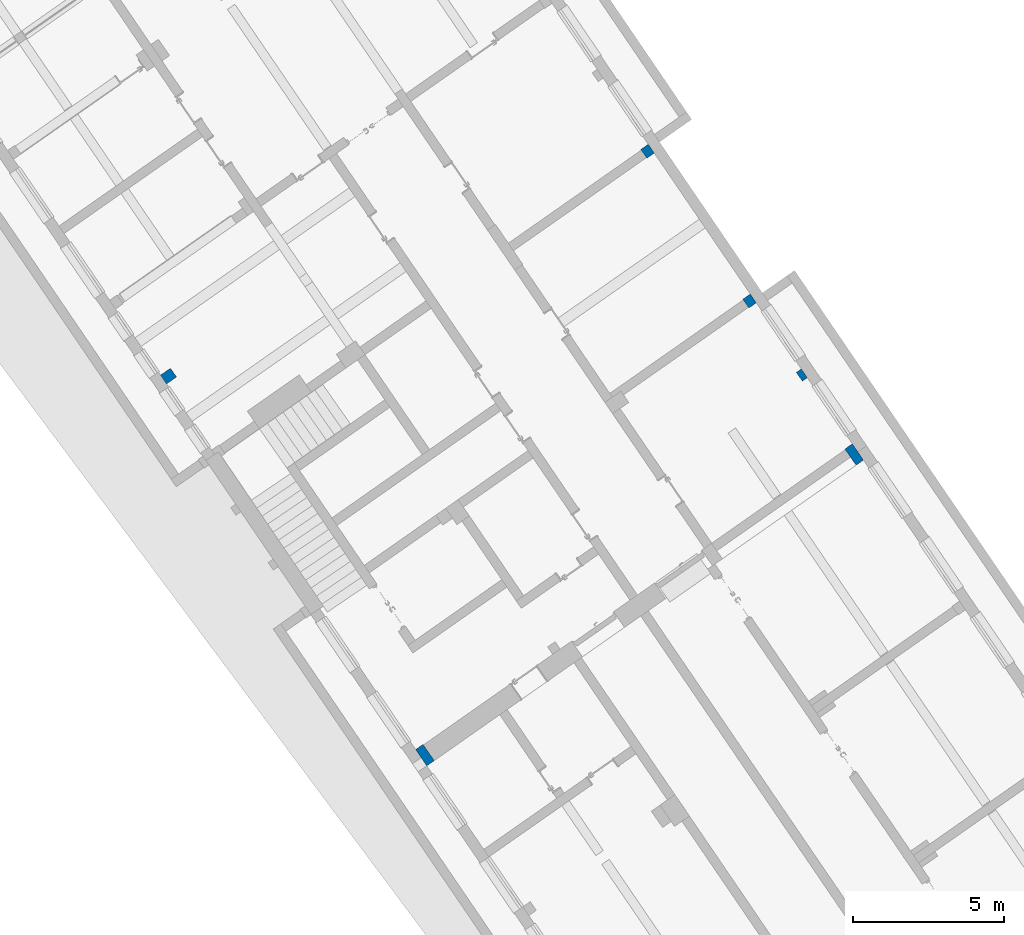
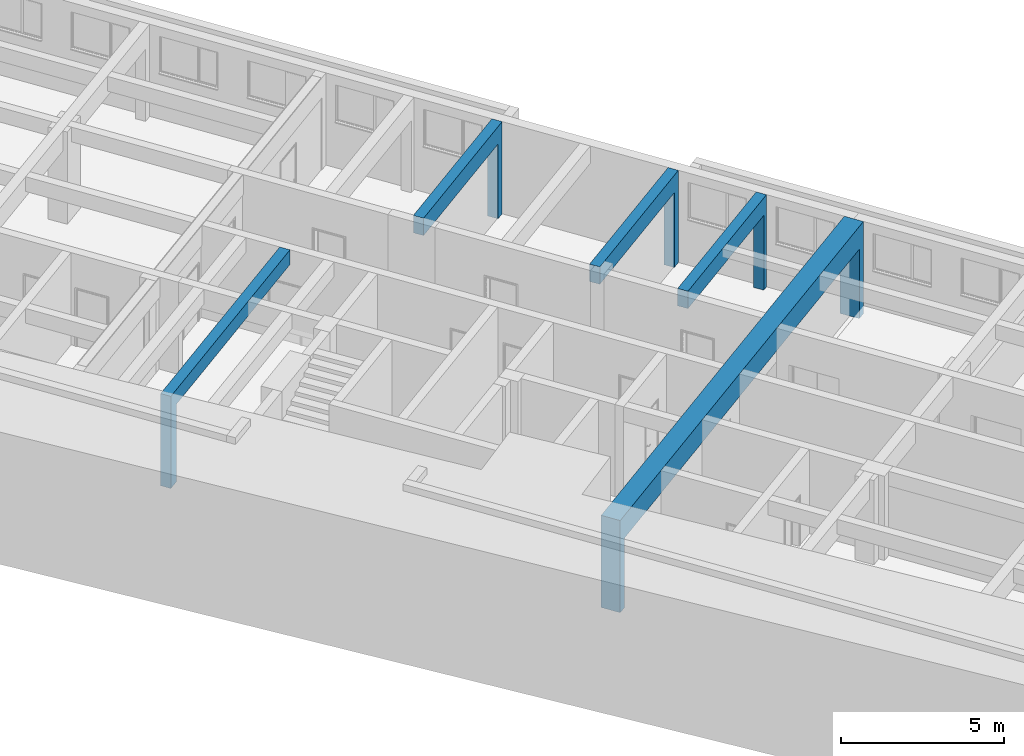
# One storey, part 104 of 112: 5 walls.
"""IFC2X3 building model written with IfcOpenShell, lengths in millimetres."""

from ifc_helpers import new_model, entity, si_unit, converted_unit, derived_unit, direction, frame, origin, place, context, subcontext, project, spatial, faceted_brep, material, layer, layer_set, type_object, element, save


model = new_model("IFC2X3")

# Units and contexts
model_context = context("Model", 3, precision=0.01, world=origin(), true_north=direction((6.123031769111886e-17, 1.0)))
body_context = subcontext(model_context, "Body", "Model", "MODEL_VIEW")
ifc_project = project(units=[si_unit("LENGTHUNIT", "METRE", prefix="MILLI"), si_unit("AREAUNIT", "SQUARE_METRE"), si_unit("VOLUMEUNIT", "CUBIC_METRE"), converted_unit("PLANEANGLEUNIT", "DEGREE", entity("IfcRatioMeasure", 0.017453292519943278), si_unit("PLANEANGLEUNIT", "RADIAN"), dimensions=[0, 0, 0, 0, 0, 0, 0]), si_unit("MASSUNIT", "GRAM", prefix="KILO"), derived_unit("MASSDENSITYUNIT", [(si_unit("MASSUNIT", "GRAM", prefix="KILO"), 1), (si_unit("LENGTHUNIT", "METRE"), -3)]), derived_unit("MOMENTOFINERTIAUNIT", [(si_unit("LENGTHUNIT", "METRE"), 4)]), si_unit("TIMEUNIT", "SECOND"), si_unit("FREQUENCYUNIT", "HERTZ"), si_unit("THERMODYNAMICTEMPERATUREUNIT", "DEGREE_CELSIUS"), derived_unit("THERMALTRANSMITTANCEUNIT", [(si_unit("MASSUNIT", "GRAM", prefix="KILO"), 1), (si_unit("THERMODYNAMICTEMPERATUREUNIT", "KELVIN"), -1), (si_unit("TIMEUNIT", "SECOND"), -3)]), derived_unit("THERMALCONDUCTANCEUNIT", [(si_unit("MASSUNIT", "GRAM", prefix="KILO"), 1), (si_unit("LENGTHUNIT", "METRE"), 1), (si_unit("THERMODYNAMICTEMPERATUREUNIT", "KELVIN"), -1), (si_unit("TIMEUNIT", "SECOND"), -3)]), derived_unit("VOLUMETRICFLOWRATEUNIT", [(si_unit("LENGTHUNIT", "METRE"), 3), (si_unit("TIMEUNIT", "SECOND"), -1)]), derived_unit("MASSFLOWRATEUNIT", [(si_unit("MASSUNIT", "GRAM", prefix="KILO"), 1), (si_unit("TIMEUNIT", "SECOND"), -1)]), derived_unit("ROTATIONALFREQUENCYUNIT", [(si_unit("TIMEUNIT", "SECOND"), -1)]), si_unit("ELECTRICCURRENTUNIT", "AMPERE"), si_unit("ELECTRICVOLTAGEUNIT", "VOLT"), si_unit("POWERUNIT", "WATT"), converted_unit("FORCEUNIT", "KIP", entity("IfcRatioMeasure", 2.088543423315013e-05), si_unit("FORCEUNIT", "NEWTON"), dimensions=[1, 1, -2, 0, 0, 0, 0]), si_unit("ILLUMINANCEUNIT", "LUX"), si_unit("LUMINOUSFLUXUNIT", "LUMEN"), si_unit("LUMINOUSINTENSITYUNIT", "CANDELA"), derived_unit("USERDEFINED", [(si_unit("MASSUNIT", "GRAM", prefix="KILO"), -1), (si_unit("LENGTHUNIT", "METRE"), -2), (si_unit("TIMEUNIT", "SECOND"), 3), (si_unit("LUMINOUSFLUXUNIT", "LUMEN"), 1)]), derived_unit("USERDEFINED", [(si_unit("MASSUNIT", "GRAM", prefix="KILO"), 1), (si_unit("LENGTHUNIT", "METRE"), 3), (si_unit("TIMEUNIT", "SECOND"), -3), (si_unit("ELECTRICCURRENTUNIT", "AMPERE"), -2)]), derived_unit("USERDEFINED", [(si_unit("LENGTHUNIT", "METRE"), 2), (si_unit("TIMEUNIT", "SECOND"), -2)]), derived_unit("SOUNDPOWERUNIT", [(si_unit("MASSUNIT", "GRAM", prefix="KILO"), 1), (si_unit("LENGTHUNIT", "METRE"), 2), (si_unit("TIMEUNIT", "SECOND"), -3)]), derived_unit("SOUNDPRESSUREUNIT", [(si_unit("MASSUNIT", "GRAM", prefix="KILO"), 1), (si_unit("LENGTHUNIT", "METRE"), -1), (si_unit("TIMEUNIT", "SECOND"), -2)]), derived_unit("LINEARVELOCITYUNIT", [(si_unit("LENGTHUNIT", "METRE"), 1), (si_unit("TIMEUNIT", "SECOND"), -1)]), si_unit("PRESSUREUNIT", "PASCAL"), derived_unit("USERDEFINED", [(si_unit("LENGTHUNIT", "METRE"), -2), (si_unit("MASSUNIT", "GRAM", prefix="KILO"), 1), (si_unit("TIMEUNIT", "SECOND"), -2)]), derived_unit("LINEARFORCEUNIT", [(si_unit("MASSUNIT", "GRAM", prefix="KILO"), 1), (si_unit("LENGTHUNIT", "METRE"), 1), (si_unit("TIMEUNIT", "SECOND"), -2), (si_unit("LENGTHUNIT", "METRE"), -1)]), derived_unit("PLANARFORCEUNIT", [(si_unit("MASSUNIT", "GRAM", prefix="KILO"), 1), (si_unit("LENGTHUNIT", "METRE"), 1), (si_unit("TIMEUNIT", "SECOND"), -2), (si_unit("LENGTHUNIT", "METRE"), -2)]), derived_unit("SPECIFICHEATCAPACITYUNIT", [(si_unit("LENGTHUNIT", "METRE"), 2), (si_unit("TIMEUNIT", "SECOND"), -2), (si_unit("THERMODYNAMICTEMPERATUREUNIT", "KELVIN"), -1)]), derived_unit("VAPORPERMEABILITYUNIT", [(si_unit("TIMEUNIT", "SECOND"), 1), (si_unit("LENGTHUNIT", "METRE"), -1)]), derived_unit("DYNAMICVISCOSITYUNIT", [(si_unit("MASSUNIT", "GRAM", prefix="KILO"), 1), (si_unit("LENGTHUNIT", "METRE"), -1), (si_unit("TIMEUNIT", "SECOND"), -1)]), derived_unit("THERMALEXPANSIONCOEFFICIENTUNIT", [(si_unit("THERMODYNAMICTEMPERATUREUNIT", "KELVIN"), -1)])], contexts=[model_context])

# Site, building, storey
site_placement = place(None, frame((0.0, 0.0, 0.0), z_axis=(0.0, 0.0, 1.0), x_axis=(0.8191520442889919, 0.5735764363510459, 0.0)))
site = spatial("IfcSite", under=ifc_project, at=site_placement, Name="Default", CompositionType="ELEMENT")
building_placement = place(site_placement, origin())
building = spatial("IfcBuilding", under=site, at=building_placement, CompositionType="ELEMENT")
storey_placement = place(building_placement, frame((0.0, 0.0, -3600.0)))
storey = spatial("IfcBuildingStorey", under=building, at=storey_placement, Name="0.UG -3.60", CompositionType="ELEMENT", Elevation=-3600.0000000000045)

# Walls
ifc_material = material(Name="Analytical Wall Surface_CJC")
ifc_layer_1 = layer(ifc_material, 350.0)
ifc_layer_set_1 = layer_set([ifc_layer_1], Name="Basic Wall:Wand_Innen_35")
wall_type_1 = type_object("IfcWallType", Name="Basic Wall:Wand_Innen_35", PredefinedType="STANDARD", material=ifc_layer_set_1)
wall_1_placement = place(storey_placement, frame((-205209.17772574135, 106696.35891435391, 0.0), z_axis=(0.0, 0.0, 1.0), x_axis=(-1.0, 0.0, 0.0)))
element("IfcWall", 1, at=wall_1_placement, inside=storey, type_object=wall_type_1, Name="Basic Wall:Wand_Innen_35", ObjectType="Basic Wall:Wand_Innen_35", context=body_context, shape_type="Brep", body=[
    faceted_brep([(0.0, -175.0, 0.0), (202.24366665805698, -175.0, 0.0), (202.24366665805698, -175.0, 2800.0), (5700.449324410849, -175.0, 2800.0), (5700.449324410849, -175.0, 3450.0), (0.0, -175.0, 3450.0), (4.4557319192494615, 175.0, 0.0), (4.4557319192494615, 175.0, 3450.0), (2904.6781541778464, 175.0, 3450.0), (3204.702463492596, 175.0, 3450.0), (5704.905041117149, 175.0, 3450.0), (5704.905041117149, 175.0, 2800.0), (202.24366665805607, 175.0, 2800.0), (202.24366665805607, 175.0, 0.0)], [[[0, 1, 2, 3, 4, 5]], [[6, 7, 8, 9, 10, 11, 12, 13]], [[0, 5, 7, 6]], [[4, 3, 11, 10]], [[1, 0, 6, 13]], [[5, 4, 10, 9, 8, 7]], [[2, 1, 13, 12]], [[3, 2, 12, 11]]]),
])
wall_2_placement = place(storey_placement, frame((-205170.9857378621, 109696.35891435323, 0.0), z_axis=(0.0, 0.0, 1.0), x_axis=(-1.0, 0.0, 0.0)))
element("IfcWall", 2, at=wall_2_placement, inside=storey, type_object=wall_type_1, Name="Basic Wall:Wand_Innen_35", ObjectType="Basic Wall:Wand_Innen_35", context=body_context, shape_type="Brep", body=[
    faceted_brep([(0.0, -175.0, 0.0), (302.2519001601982, -175.0, 0.0), (302.2519001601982, -175.0, 2800.0), (5704.479758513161, -175.0, 2800.0), (5704.479758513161, -175.0, 3450.0), (0.0, -175.0, 3450.0), (4.455731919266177, 175.0, 0.0), (4.455731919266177, 175.0, 3450.0), (5704.47975851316, 175.0, 3450.0), (5704.47975851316, 175.0, 2800.0), (302.2519001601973, 175.0, 2800.0), (302.2519001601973, 175.0, 0.0), (302.25190016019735, 150.0, 0.0), (302.25190016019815, -150.0, 0.0), (302.25190016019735, 150.0, 2800.0), (302.25190016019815, -150.0, 2800.0)], [[[0, 1, 2, 3, 4, 5]], [[6, 7, 8, 9, 10, 11]], [[0, 5, 7, 6]], [[4, 3, 9, 8]], [[5, 4, 8, 7]], [[1, 0, 6, 11, 12, 13]], [[2, 1, 13, 12, 11, 10, 14, 15]], [[3, 2, 15, 14, 10, 9]]]),
])
wall_3_placement = place(storey_placement, frame((-205094.60176210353, 115696.35891435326, 0.0), z_axis=(0.0, 0.0, 1.0), x_axis=(-1.0, 0.0, 0.0)))
element("IfcWall", 3, at=wall_3_placement, inside=storey, type_object=wall_type_1, Name="Basic Wall:Wand_Innen_35", ObjectType="Basic Wall:Wand_Innen_35", context=body_context, shape_type="Brep", body=[
    faceted_brep([(0.0, -175.0, 0.0), (302.25216095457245, -175.0, 0.0), (302.25216095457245, -175.0, 2800.0), (5704.480019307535, -175.0, 2800.0), (5704.480019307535, -175.0, 3450.0), (0.0, -175.0, 3450.0), (4.455731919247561, 175.0, 0.0), (4.455731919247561, 175.0, 3450.0), (5704.480019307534, 175.0, 3450.0), (5704.480019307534, 175.0, 2800.0), (302.25216095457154, 175.0, 2800.0), (302.25216095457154, 175.0, 0.0), (302.2521609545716, 150.0, 0.0), (302.2521609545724, -150.0, 0.0), (302.2521609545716, 150.0, 2800.0), (302.2521609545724, -150.0, 2800.0)], [[[0, 1, 2, 3, 4, 5]], [[6, 7, 8, 9, 10, 11]], [[4, 3, 9, 8]], [[5, 4, 8, 7]], [[1, 0, 6, 11, 12, 13]], [[2, 1, 13, 12, 11, 10, 14, 15]], [[3, 2, 15, 14, 10, 9]], [[0, 5, 7, 6]]]),
])
wall_4_placement = place(storey_placement, frame((-214057.12688761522, 118696.35891435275, 0.0), z_axis=(0.0, 0.0, 1.0), x_axis=(-1.0, 0.0, 0.0)))
element("IfcWall", 4, at=wall_4_placement, inside=storey, type_object=wall_type_1, Name="Basic Wall:Wand_Innen_35", ObjectType="Basic Wall:Wand_Innen_35", context=body_context, shape_type="Brep", body=[
    faceted_brep([(8650.651745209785, -175.0, 3450.0), (3050.2594344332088, -175.0, 3450.0), (2750.235125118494, -175.0, 3450.0), (0.0, -175.0, 3450.0), (0.0, -175.0, 2900.0), (2750.235125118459, -175.0, 2900.0), (3050.2594344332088, -175.0, 2900.0), (8252.908654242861, -175.0, 2900.0), (8252.908654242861, -175.0, 0.0), (8650.651745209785, -175.0, 0.0), (4.455716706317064, 175.0, 3450.0), (2754.6908418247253, 175.0, 3450.0), (3054.7151511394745, 175.0, 3450.0), (8655.107461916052, 175.0, 3450.0), (8655.107461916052, 175.0, 0.0), (8252.90865424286, 175.0, 0.0), (8252.90865424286, 175.0, 2900.0), (3054.7151511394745, 175.0, 2900.0), (2754.6908418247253, 175.0, 2900.0), (4.455716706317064, 175.0, 2900.0)], [[[0, 1, 2, 3, 4, 5, 6, 7, 8, 9]], [[10, 11, 12, 13, 14, 15, 16, 17, 18, 19]], [[3, 2, 1, 0, 13, 12, 11, 10]], [[9, 8, 15, 14]], [[8, 7, 16, 15]], [[7, 6, 5, 4, 19, 18, 17, 16]], [[0, 9, 14, 13]], [[4, 3, 10, 19]]]),
])
ifc_layer_2 = layer(ifc_material, 650.0)
ifc_layer_set_2 = layer_set([ifc_layer_2], Name="Basic Wall:Wand_Innen_65")
wall_type_2 = type_object("IfcWallType", Name="Basic Wall:Wand_Innen_65", PredefinedType="STANDARD", material=ifc_layer_set_2)
wall_5_placement = place(storey_placement, frame((-205247.36971362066, 103546.35891435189, 0.0), z_axis=(0.0, 0.0, 1.0), x_axis=(-1.0, 0.0, 0.0)))
element("IfcWall", 5, at=wall_5_placement, inside=storey, type_object=wall_type_2, Name="Basic Wall:Wand_Innen_65", ObjectType="Basic Wall:Wand_Innen_65", context=body_context, shape_type="Brep", body=[
    faceted_brep([(0.0, -325.0, 0.0), (304.1217070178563, -325.0, 0.0), (304.1217070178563, -325.0, 2600.0), (8700.692152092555, -325.0, 2600.0), (9000.71646140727, -325.0, 2600.0), (11825.945509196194, -325.0, 2600.0), (12125.969818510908, -325.0, 2600.0), (17355.58130137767, -325.0, 2600.0), (17355.58130137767, -325.0, 0.0), (17651.368206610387, -325.0, 0.0), (17651.368206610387, -325.0, 3450.0), (12125.969818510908, -325.0, 3450.0), (11825.945509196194, -325.0, 3450.0), (9000.71646140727, -325.0, 3450.0), (8700.692152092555, -325.0, 3450.0), (3200.2466163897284, -325.0, 3450.0), (2900.2223070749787, -325.0, 3450.0), (0.0, -325.0, 3450.0), (8.274930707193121, 325.0, 3450.0), (2908.4972095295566, 325.0, 3450.0), (3208.5215188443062, 325.0, 3450.0), (6008.748405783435, 325.0, 3450.0), (6308.772715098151, 325.0, 3450.0), (8708.967054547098, 325.0, 3450.0), (9008.991363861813, 325.0, 3450.0), (11409.185973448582, 325.0, 3450.0), (11709.210038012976, 325.0, 3450.0), (14409.42906659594, 325.0, 3450.0), (14709.453375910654, 325.0, 3450.0), (17659.643109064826, 325.0, 3450.0), (17659.643109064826, 325.0, 300.0), (17659.643109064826, 325.0, 0.0), (17355.58130137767, 325.0, 0.0), (17355.58130137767, 325.0, 2600.0), (5708.724096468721, 325.0, 2600.0), (304.1217070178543, 325.0, 2600.0), (304.1217070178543, 325.0, 0.0), (8.274930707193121, 325.0, 0.0), (8.274930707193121, 325.0, 300.0), (4.109105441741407, -2.2276854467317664, 3450.0), (17655.53401755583, 2.2276778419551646, 3450.0), (304.1217070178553, 0.0, 0.0), (304.1217070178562, -300.0, 0.0), (304.1217070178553, 0.0, 2600.0), (304.1217070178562, -300.0, 2600.0), (17355.58130137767, -305.0, 2600.0), (17355.58130137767, -305.0, 0.0)], [[[0, 1, 2, 3, 4, 5, 6, 7, 8, 9, 10, 11, 12, 13, 14, 15, 16, 17]], [[18, 19, 20, 21, 22, 23, 24, 25, 26, 27, 28, 29, 30, 31, 32, 33, 34, 35, 36, 37, 38]], [[29, 28, 27, 26, 25, 24, 23, 22, 21, 20, 19, 18, 39, 17, 16, 15, 14, 13, 12, 11, 10, 40]], [[1, 0, 37, 36, 41, 42]], [[2, 1, 42, 41, 36, 35, 43, 44]], [[35, 34, 33, 45, 7, 6, 5, 4, 3, 2, 44, 43]], [[8, 7, 45, 33, 32, 46]], [[9, 8, 46, 32, 31]], [[17, 39, 18, 38, 37, 0]], [[9, 31, 30, 29, 40, 10]]]),
])

save(model, "model.ifc")
